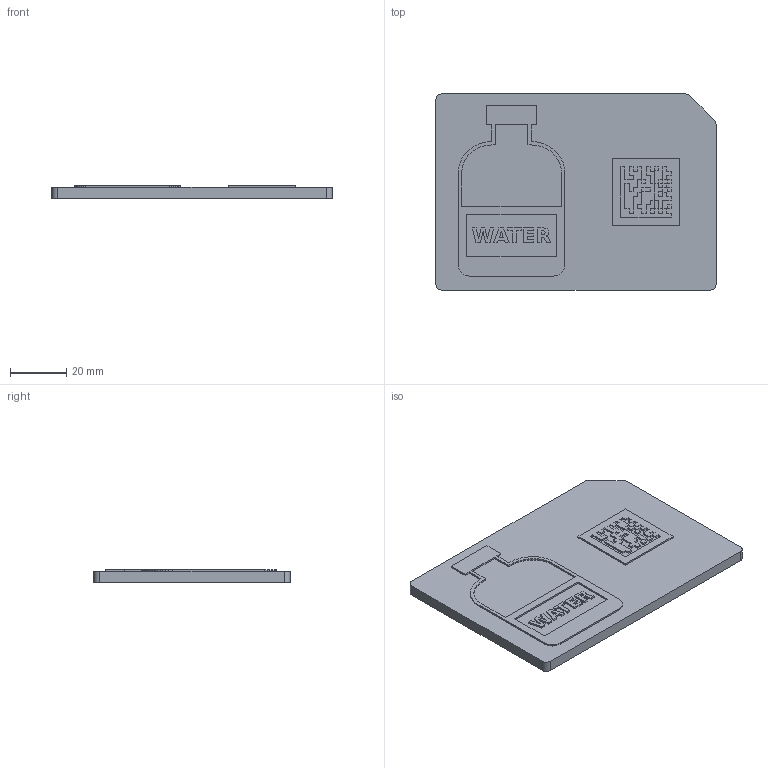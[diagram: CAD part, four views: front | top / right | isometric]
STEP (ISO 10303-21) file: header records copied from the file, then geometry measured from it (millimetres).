
FILE_DESCRIPTION(('Open CASCADE Model'),'2;1');
FILE_NAME('Open CASCADE Shape Model','2026-10-14T18:10:00',('Author'),( 'Open CASCADE'),'Open CASCADE STEP processor 7.9','Open CASCADE 7.9' ,'Unknown');
FILE_SCHEMA(('AUTOMOTIVE_DESIGN { 1 0 10303 214 1 1 1 1 }'));
Length unit declared in the file: millimetre
Products named in the file (3): SN-4814; SN-4814_base_dark; SN-4814_features_red
Assembly tree (2 placements, depth 2):
  SN-4814
    SN-4814_base_dark
    SN-4814_features_red
Bounding box: 100 x 70 x 4.6 mm (x, y, z)
Volume: 28484.9 mm3; surface area: 19526.1 mm2
Topology: 8 solids, 8 shells, 661 faces, 1866 edges, 1244 vertices
Faces by surface type: plane 656, cylinder 5
Entity records: 44738 total; most frequent: CARTESIAN_POINT 8130, DIRECTION 6322, LINE 4966, VECTOR 4966, ORIENTED_EDGE 3732, PCURVE 3732, DEFINITIONAL_REPRESENTATION 3732, EDGE_CURVE 1866
